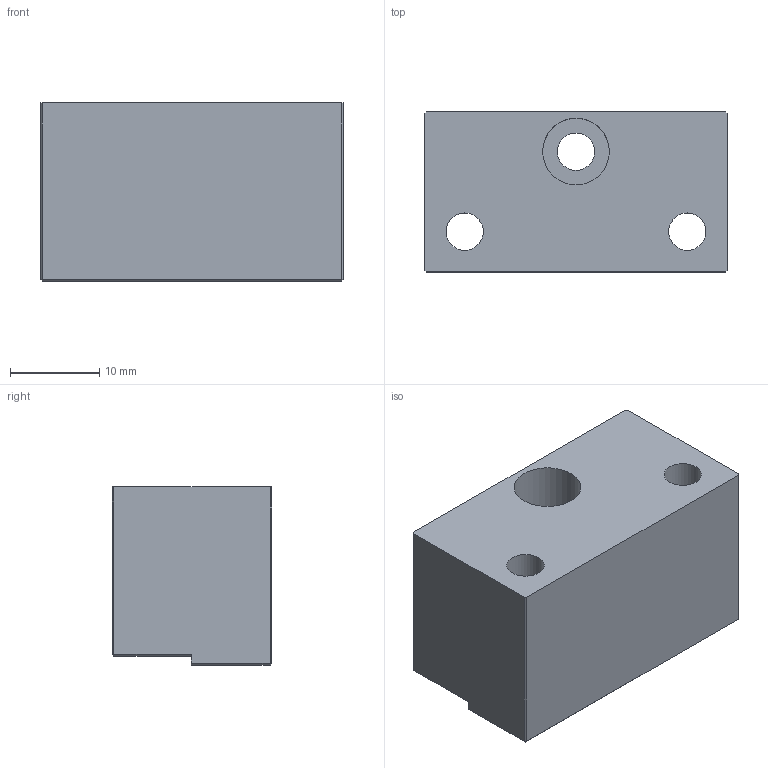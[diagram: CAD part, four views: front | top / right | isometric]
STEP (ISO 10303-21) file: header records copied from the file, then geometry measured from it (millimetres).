
FILE_DESCRIPTION(/* description */ (''),/* implementation_level */ '2;1');
FILE_NAME(/* name */ '',/* time_stamp */ '2025-12-08T17:29:42+08:00',/* author */ ('Q'),/* organization */ (''),/* preprocessor_version */ 'ST-DEVELOPER v20',/* originating_system */ 'Autodesk Inventor 2025',/* authorisation */ '');
FILE_SCHEMA (('AUTOMOTIVE_DESIGN { 1 0 10303 214 3 1 1 }'));
Length unit declared in the file: millimetre
Products named in the file (1): 耦合头底座
Bounding box: 34 x 17.94 x 20 mm (x, y, z)
Volume: 9772.3 mm3; surface area: 4399.5 mm2
Topology: 1 solids, 1 shells, 31 faces, 66 edges, 40 vertices
Faces by surface type: plane 25, cylinder 6
Full cylindrical faces by diameter (mm): 4.2 x3, 7.5 x3
Entity records: 871 total; most frequent: DIRECTION 142, CARTESIAN_POINT 138, ORIENTED_EDGE 132, EDGE_CURVE 66, LINE 54, VECTOR 54, AXIS2_PLACEMENT_3D 44, EDGE_LOOP 40
